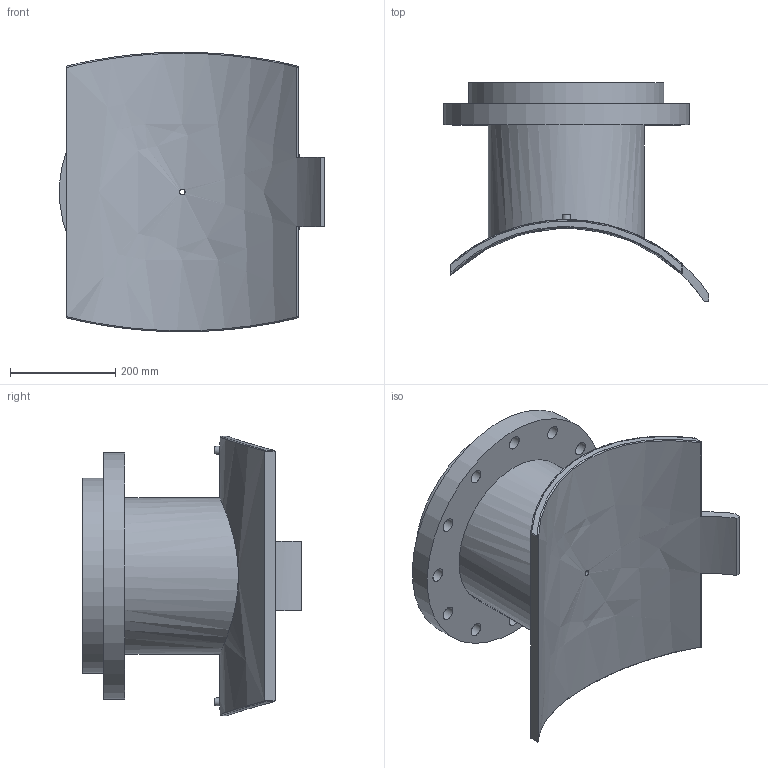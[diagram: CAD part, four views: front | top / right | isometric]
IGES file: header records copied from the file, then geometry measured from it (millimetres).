
Global section: file name: 495903630300T; native system: Autodesk Inventor 2019; preprocessor: unknown; author: KIM; date: 20240403.210457; units: millimetre
Bounding box: 502.52 x 414.55 x 529.91 mm (x, y, z)
Volume: 13940142.8 mm3; surface area: 1306241 mm2
Topology: 1 solids, 1 shells, 62 faces, 163 edges, 126 vertices
Faces by surface type: bspline 62
